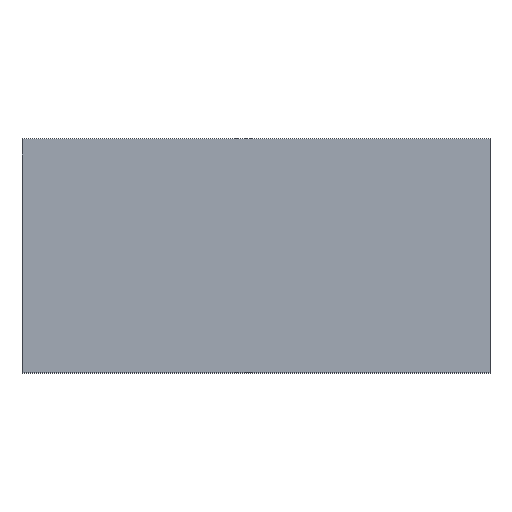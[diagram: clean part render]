
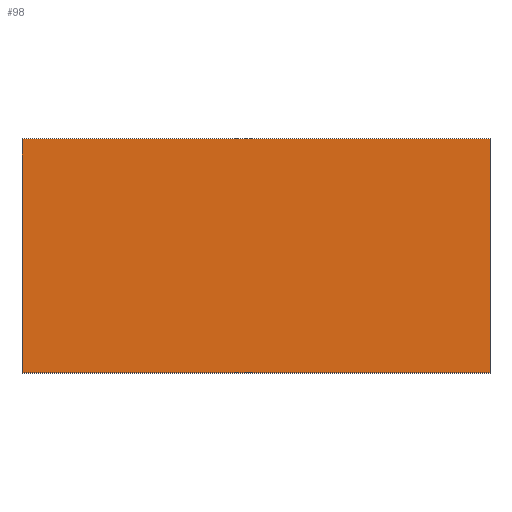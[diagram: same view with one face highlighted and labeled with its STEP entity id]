
A CAD part, top view. The second image highlights one B-rep face of the part: STEP entity #98.
In plain terms, the highlighted planar face has unit normal (0, 0, 1).
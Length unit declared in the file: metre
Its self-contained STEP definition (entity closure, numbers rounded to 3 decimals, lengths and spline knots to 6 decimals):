
#12=ORIENTED_EDGE('',*,*,#36,.F.);
#13=ORIENTED_EDGE('',*,*,#37,.F.);
#14=ORIENTED_EDGE('',*,*,#38,.T.);
#15=ORIENTED_EDGE('',*,*,#39,.T.);
#36=EDGE_CURVE('',#48,#49,#56,.T.);
#37=EDGE_CURVE('',#50,#48,#57,.T.);
#38=EDGE_CURVE('',#50,#51,#58,.T.);
#39=EDGE_CURVE('',#51,#49,#59,.T.);
#48=VERTEX_POINT('',#152);
#49=VERTEX_POINT('',#153);
#50=VERTEX_POINT('',#155);
#51=VERTEX_POINT('',#157);
#56=LINE('',#151,#68);
#57=LINE('',#154,#69);
#58=LINE('',#156,#70);
#59=LINE('',#158,#71);
#68=VECTOR('',#127,1.);
#69=VECTOR('',#128,1.);
#70=VECTOR('',#129,1.);
#71=VECTOR('',#130,1.);
#80=EDGE_LOOP('',(#12,#13,#14,#15));
#86=FACE_BOUND('',#80,.T.);
#92=PLANE('',#117);
#98=ADVANCED_FACE('',(#86),#92,.T.);
#117=AXIS2_PLACEMENT_3D('',#150,#125,#126);
#125=DIRECTION('',(0.,0.,1.));
#126=DIRECTION('',(0.,-1.,0.));
#127=DIRECTION('',(1.,0.,0.));
#128=DIRECTION('',(0.,1.,0.));
#129=DIRECTION('',(1.,0.,0.));
#130=DIRECTION('',(0.,1.,0.));
#150=CARTESIAN_POINT('',(0.035788,-0.0381,-0.260275));
#151=CARTESIAN_POINT('',(0.035788,0.,-0.260275));
#152=CARTESIAN_POINT('',(-0.002312,0.,-0.260275));
#153=CARTESIAN_POINT('',(0.073888,0.,-0.260275));
#154=CARTESIAN_POINT('',(-0.002312,-0.0381,-0.260275));
#155=CARTESIAN_POINT('',(-0.002312,-0.0381,-0.260275));
#156=CARTESIAN_POINT('',(0.035788,-0.0381,-0.260275));
#157=CARTESIAN_POINT('',(0.073888,-0.0381,-0.260275));
#158=CARTESIAN_POINT('',(0.073888,-0.0381,-0.260275));
